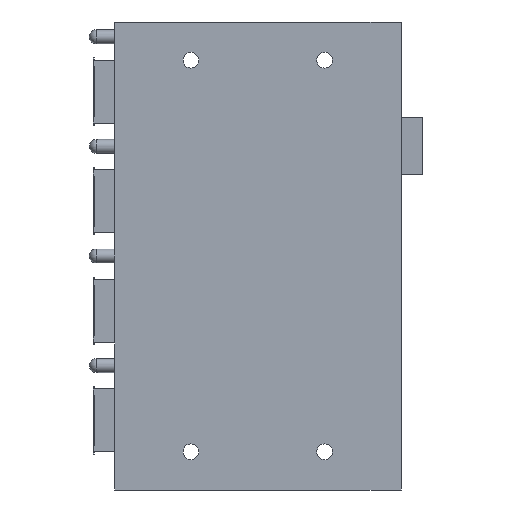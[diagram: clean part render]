
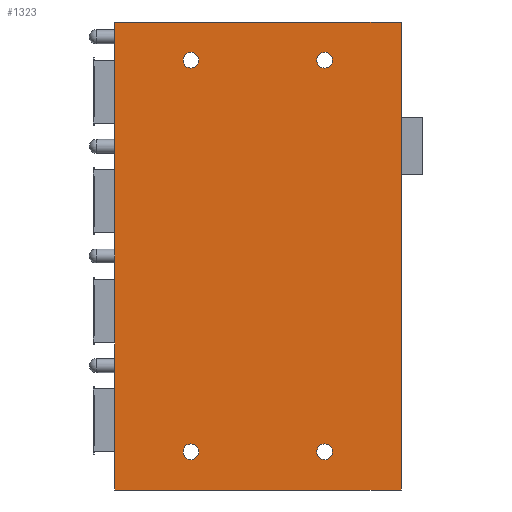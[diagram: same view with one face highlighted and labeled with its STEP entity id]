
A CAD part, left-side view. The second image highlights one B-rep face of the part: STEP entity #1323.
In plain terms, the highlighted planar face has unit normal (-1, 0, 0).
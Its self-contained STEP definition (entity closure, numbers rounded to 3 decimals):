
#130 = CARTESIAN_POINT ( 'NONE',  ( -1.5, 30., 49. ) ) ;
#146 = CARTESIAN_POINT ( 'NONE',  ( -1.5, -14., -39.35 ) ) ;
#166 = CARTESIAN_POINT ( 'NONE',  ( -1.5, 14., 39.35 ) ) ;
#183 = CARTESIAN_POINT ( 'NONE',  ( -1.5, 14., 42.65 ) ) ;
#214 = CARTESIAN_POINT ( 'NONE',  ( -1.5, -30., 49. ) ) ;
#282 = CARTESIAN_POINT ( 'NONE',  ( -1.5, 30., -49. ) ) ;
#286 = CARTESIAN_POINT ( 'NONE',  ( -1.5, -30., -49. ) ) ;
#287 = CARTESIAN_POINT ( 'NONE',  ( -1.5, -14., 42.65 ) ) ;
#297 = CARTESIAN_POINT ( 'NONE',  ( -1.5, 14., -39.35 ) ) ;
#300 = CARTESIAN_POINT ( 'NONE',  ( -1.5, -14., 39.35 ) ) ;
#446 = CARTESIAN_POINT ( 'NONE',  ( -1.5, -14., -42.65 ) ) ;
#591 = CARTESIAN_POINT ( 'NONE',  ( -1.5, 14., -42.65 ) ) ;
#1028 = DIRECTION ( 'NONE',  ( 0., 0., -1. ) ) ;
#1029 = DIRECTION ( 'NONE',  ( 1., 0., 0. ) ) ;
#1031 = CARTESIAN_POINT ( 'NONE',  ( -1.5, -14., -41. ) ) ;
#1053 = DIRECTION ( 'NONE',  ( 0., 0., -1. ) ) ;
#1054 = DIRECTION ( 'NONE',  ( 1., 0., 0. ) ) ;
#1056 = CARTESIAN_POINT ( 'NONE',  ( -1.5, 14., -41. ) ) ;
#1185 = DIRECTION ( 'NONE',  ( 0., 0., 1. ) ) ;
#1186 = CARTESIAN_POINT ( 'NONE',  ( -1.5, 30., -49. ) ) ;
#1202 = DIRECTION ( 'NONE',  ( 0., 0., -1. ) ) ;
#1204 = DIRECTION ( 'NONE',  ( 1., 0., 0. ) ) ;
#1205 = CARTESIAN_POINT ( 'NONE',  ( -1.5, -14., 41. ) ) ;
#1229 = DIRECTION ( 'NONE',  ( 0., 0., -1. ) ) ;
#1230 = DIRECTION ( 'NONE',  ( 1., 0., 0. ) ) ;
#1231 = CARTESIAN_POINT ( 'NONE',  ( -1.5, 14., 41. ) ) ;
#1323 = ADVANCED_FACE ( 'NONE', ( #3043, #3044, #3045, #3046, #3047 ), #5420, .T. ) ;
#2087 = AXIS2_PLACEMENT_3D ( 'NONE', #1056, #1054, #1053 ) ;
#2147 = AXIS2_PLACEMENT_3D ( 'NONE', #1031, #1029, #1028 ) ;
#2194 = AXIS2_PLACEMENT_3D ( 'NONE', #3551, #3547, #3546 ) ;
#2195 = AXIS2_PLACEMENT_3D ( 'NONE', #3611, #3612, #3645 ) ;
#2205 = AXIS2_PLACEMENT_3D ( 'NONE', #3608, #3609, #3610 ) ;
#2213 = AXIS2_PLACEMENT_3D ( 'NONE', #1231, #1230, #1229 ) ;
#2218 = AXIS2_PLACEMENT_3D ( 'NONE', #3607, #3605, #3606 ) ;
#2225 = AXIS2_PLACEMENT_3D ( 'NONE', #1205, #1204, #1202 ) ;
#2285 = EDGE_CURVE ( 'NONE', #5952, #5260, #4840, .T. ) ;
#2288 = EDGE_CURVE ( 'NONE', #5205, #5209, #4846, .T. ) ;
#2289 = EDGE_CURVE ( 'NONE', #5260, #5205, #4848, .T. ) ;
#2291 = EDGE_CURVE ( 'NONE', #6025, #5934, #4852, .T. ) ;
#2292 = EDGE_CURVE ( 'NONE', #6051, #5194, #4853, .T. ) ;
#2293 = EDGE_CURVE ( 'NONE', #5191, #5204, #4854, .T. ) ;
#2294 = EDGE_CURVE ( 'NONE', #5913, #5288, #4856, .T. ) ;
#2495 = EDGE_CURVE ( 'NONE', #5288, #5913, #6489, .T. ) ;
#2504 = EDGE_CURVE ( 'NONE', #5204, #5191, #6517, .T. ) ;
#2511 = EDGE_CURVE ( 'NONE', #5209, #5952, #6529, .T. ) ;
#2559 = EDGE_CURVE ( 'NONE', #5194, #6051, #6620, .T. ) ;
#2568 = EDGE_CURVE ( 'NONE', #5934, #6025, #6638, .T. ) ;
#2712 = AXIS2_PLACEMENT_3D ( 'NONE', #5416, #5418, #5421 ) ;
#3043 = FACE_BOUND ( 'NONE', #5607, .T. ) ;
#3044 = FACE_BOUND ( 'NONE', #5611, .T. ) ;
#3045 = FACE_BOUND ( 'NONE', #5610, .T. ) ;
#3046 = FACE_BOUND ( 'NONE', #5609, .T. ) ;
#3047 = FACE_OUTER_BOUND ( 'NONE', #5612, .T. ) ;
#3546 = DIRECTION ( 'NONE',  ( 0., 0., -1. ) ) ;
#3547 = DIRECTION ( 'NONE',  ( 1., 0., 0. ) ) ;
#3551 = CARTESIAN_POINT ( 'NONE',  ( -1.5, -14., -41. ) ) ;
#3552 = CARTESIAN_POINT ( 'NONE',  ( -1.5, -30., -49. ) ) ;
#3553 = CARTESIAN_POINT ( 'NONE',  ( -1.5, 30., 49. ) ) ;
#3556 = DIRECTION ( 'NONE',  ( 0., 0., -1. ) ) ;
#3563 = DIRECTION ( 'NONE',  ( 0., 1., 0. ) ) ;
#3564 = CARTESIAN_POINT ( 'NONE',  ( -1.5, 30., -49. ) ) ;
#3605 = DIRECTION ( 'NONE',  ( 1., 0., 0. ) ) ;
#3606 = DIRECTION ( 'NONE',  ( 0., 0., -1. ) ) ;
#3607 = CARTESIAN_POINT ( 'NONE',  ( -1.5, 14., -41. ) ) ;
#3608 = CARTESIAN_POINT ( 'NONE',  ( -1.5, -14., 41. ) ) ;
#3609 = DIRECTION ( 'NONE',  ( 1., 0., 0. ) ) ;
#3610 = DIRECTION ( 'NONE',  ( 0., 0., -1. ) ) ;
#3611 = CARTESIAN_POINT ( 'NONE',  ( -1.5, 14., 41. ) ) ;
#3612 = DIRECTION ( 'NONE',  ( 1., 0., 0. ) ) ;
#3645 = DIRECTION ( 'NONE',  ( 0., 0., -1. ) ) ;
#3746 = DIRECTION ( 'NONE',  ( 0., -1., 0. ) ) ;
#4840 = LINE ( 'NONE', #3553, #4841 ) ;
#4841 = VECTOR ( 'NONE', #3746, 1000. ) ;
#4846 = LINE ( 'NONE', #3564, #4847 ) ;
#4847 = VECTOR ( 'NONE', #3563, 1000. ) ;
#4848 = LINE ( 'NONE', #3552, #4849 ) ;
#4849 = VECTOR ( 'NONE', #3556, 1000. ) ;
#4852 = CIRCLE ( 'NONE', #2194, 1.65 ) ;
#4853 = CIRCLE ( 'NONE', #2218, 1.65 ) ;
#4854 = CIRCLE ( 'NONE', #2205, 1.65 ) ;
#4856 = CIRCLE ( 'NONE', #2195, 1.65 ) ;
#5191 = VERTEX_POINT ( 'NONE', #300 ) ;
#5194 = VERTEX_POINT ( 'NONE', #297 ) ;
#5204 = VERTEX_POINT ( 'NONE', #287 ) ;
#5205 = VERTEX_POINT ( 'NONE', #286 ) ;
#5209 = VERTEX_POINT ( 'NONE', #282 ) ;
#5260 = VERTEX_POINT ( 'NONE', #214 ) ;
#5288 = VERTEX_POINT ( 'NONE', #183 ) ;
#5416 = CARTESIAN_POINT ( 'NONE',  ( -1.5, -30., 49. ) ) ;
#5418 = DIRECTION ( 'NONE',  ( -1., 0., 0. ) ) ;
#5420 = PLANE ( 'NONE',  #2712 ) ;
#5421 = DIRECTION ( 'NONE',  ( 0., 0., 1. ) ) ;
#5607 = EDGE_LOOP ( 'NONE', ( #5774, #5775 ) ) ;
#5609 = EDGE_LOOP ( 'NONE', ( #5780, #5781 ) ) ;
#5610 = EDGE_LOOP ( 'NONE', ( #5778, #5779 ) ) ;
#5611 = EDGE_LOOP ( 'NONE', ( #5776, #5777 ) ) ;
#5612 = EDGE_LOOP ( 'NONE', ( #5782, #5783, #5784, #5785 ) ) ;
#5774 = ORIENTED_EDGE ( 'NONE', *, *, #2291, .T. ) ;
#5775 = ORIENTED_EDGE ( 'NONE', *, *, #2568, .T. ) ;
#5776 = ORIENTED_EDGE ( 'NONE', *, *, #2292, .T. ) ;
#5777 = ORIENTED_EDGE ( 'NONE', *, *, #2559, .T. ) ;
#5778 = ORIENTED_EDGE ( 'NONE', *, *, #2293, .T. ) ;
#5779 = ORIENTED_EDGE ( 'NONE', *, *, #2504, .T. ) ;
#5780 = ORIENTED_EDGE ( 'NONE', *, *, #2294, .T. ) ;
#5781 = ORIENTED_EDGE ( 'NONE', *, *, #2495, .T. ) ;
#5782 = ORIENTED_EDGE ( 'NONE', *, *, #2285, .F. ) ;
#5783 = ORIENTED_EDGE ( 'NONE', *, *, #2511, .F. ) ;
#5784 = ORIENTED_EDGE ( 'NONE', *, *, #2288, .F. ) ;
#5785 = ORIENTED_EDGE ( 'NONE', *, *, #2289, .F. ) ;
#5913 = VERTEX_POINT ( 'NONE', #166 ) ;
#5934 = VERTEX_POINT ( 'NONE', #146 ) ;
#5952 = VERTEX_POINT ( 'NONE', #130 ) ;
#6025 = VERTEX_POINT ( 'NONE', #446 ) ;
#6051 = VERTEX_POINT ( 'NONE', #591 ) ;
#6489 = CIRCLE ( 'NONE', #2213, 1.65 ) ;
#6517 = CIRCLE ( 'NONE', #2225, 1.65 ) ;
#6529 = LINE ( 'NONE', #1186, #6530 ) ;
#6530 = VECTOR ( 'NONE', #1185, 1000. ) ;
#6620 = CIRCLE ( 'NONE', #2087, 1.65 ) ;
#6638 = CIRCLE ( 'NONE', #2147, 1.65 ) ;
